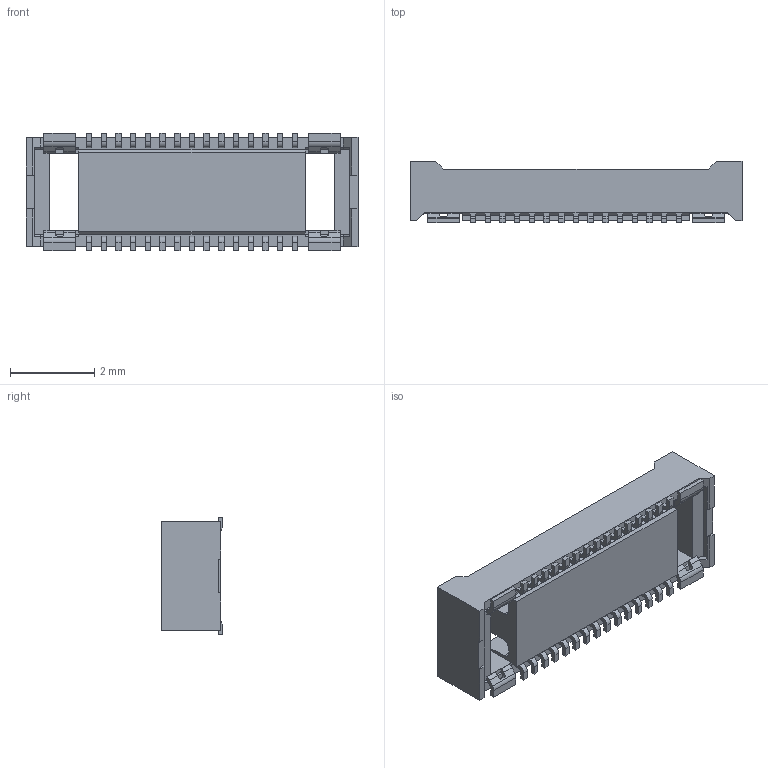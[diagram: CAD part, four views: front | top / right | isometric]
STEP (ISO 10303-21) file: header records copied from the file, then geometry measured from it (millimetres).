
FILE_DESCRIPTION (( 'STEP AP203' ), '1' );
FILE_NAME ('20843-030E-01-RECE ASS''Y 3Dmodel.STEP', '2018-06-04T11:11:57', ( '' ), ( '' ), 'SwSTEP 2.0', 'SolidWorks 2017', '' );
FILE_SCHEMA (( 'CONFIG_CONTROL_DESIGN' ));
Length unit declared in the file: millimetre
Products named in the file (1): 20843-030E-01-RECE ASS''Y 3Dmodel
Bounding box: 7.9 x 1.46 x 2.8 mm (x, y, z)
Volume: 16.4 mm3; surface area: 98.7 mm2
Topology: 1 solids, 1 shells, 435 faces, 1230 edges, 816 vertices
Faces by surface type: plane 337, cylinder 98
Entity records: 14061 total; most frequent: CARTESIAN_POINT 2494, ORIENTED_EDGE 2460, DIRECTION 2290, EDGE_CURVE 1230, LINE 1034, VECTOR 1034, VERTEX_POINT 816, AXIS2_PLACEMENT_3D 628
